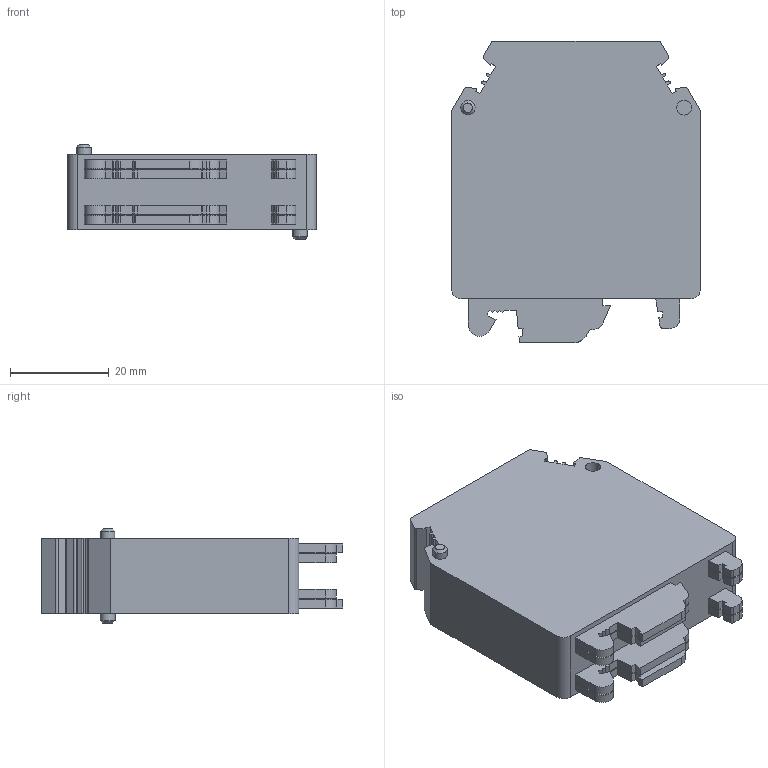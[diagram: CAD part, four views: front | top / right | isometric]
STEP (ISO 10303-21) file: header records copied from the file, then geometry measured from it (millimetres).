
FILE_DESCRIPTION(/* description */ (''),/* implementation_level */ '2;1');
FILE_NAME(/* name */ 'JUT1-35PE.stp',/* time_stamp */ '2023-02-16T14:20:55+08:00',/* author */ (''),/* organization */ (''),/* preprocessor_version */ 'ST-DEVELOPER v16.7',/* originating_system */ 'SIEMENS PLM Software NX 12.0',/* authorisation */ '');
FILE_SCHEMA (('AP203_CONFIGURATION_CONTROLLED_3D_DESIGN_OF_MECHANICAL_PARTS_AND_ASSEMBLIES_MIM_LF { 1 0 10303 403 2 1 2}'));
Length unit declared in the file: millimetre
Products named in the file (1): Admi348C08DB5fui
Bounding box: 50.4 x 61.1 x 19.2 mm (x, y, z)
Volume: 38383.3 mm3; surface area: 10605.6 mm2
Topology: 1 solids, 1 shells, 216 faces, 599 edges, 399 vertices
Faces by surface type: plane 178, cylinder 36, cone 2
Full cylindrical faces by diameter (mm): 2.9 x2, 3 x2, 6.8 x2
Entity records: 6886 total; most frequent: CARTESIAN_POINT 1217, ORIENTED_EDGE 1180, DIRECTION 1094, EDGE_CURVE 590, LINE 512, VECTOR 512, VERTEX_POINT 398, AXIS2_PLACEMENT_3D 291
